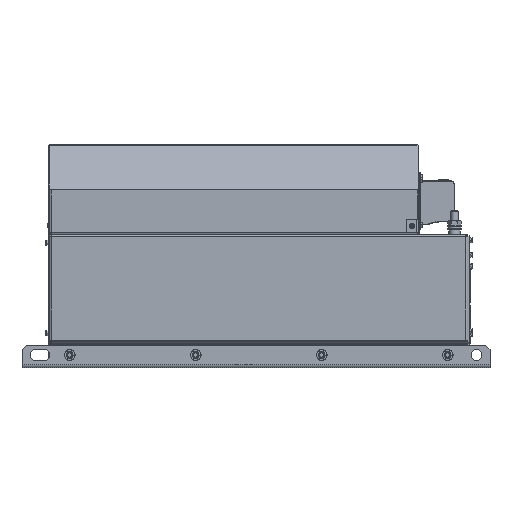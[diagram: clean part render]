
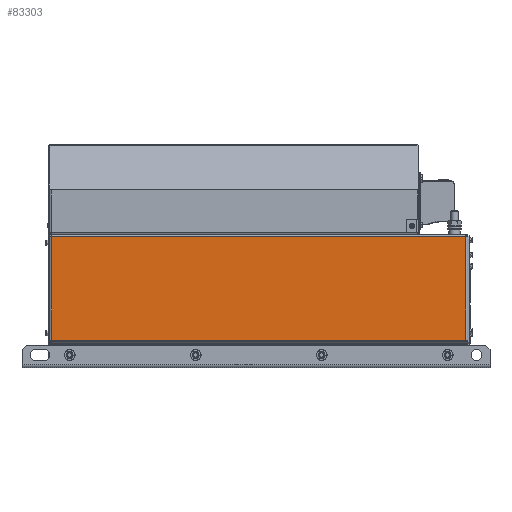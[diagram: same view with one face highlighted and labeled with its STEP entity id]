
A CAD part, left-side view. The second image highlights one B-rep face of the part: STEP entity #83303.
In plain terms, the highlighted planar face has unit normal (-1, 0, 0).
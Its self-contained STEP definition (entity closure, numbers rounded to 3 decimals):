
#3333=PLANE('',#88600);
#7437=FACE_OUTER_BOUND('',#12478,.T.);
#12478=EDGE_LOOP('',(#62225,#62226,#62227,#62228));
#21843=LINE('',#153507,#28965);
#22412=LINE('',#156756,#29534);
#22455=LINE('',#157038,#29577);
#22456=LINE('',#157039,#29578);
#28965=VECTOR('',#99461,10.);
#29534=VECTOR('',#101806,10.);
#29577=VECTOR('',#101909,10.);
#29578=VECTOR('',#101910,10.);
#35846=VERTEX_POINT('',#153504);
#35847=VERTEX_POINT('',#153506);
#36675=VERTEX_POINT('',#156747);
#36706=VERTEX_POINT('',#157037);
#44545=EDGE_CURVE('',#35847,#35846,#21843,.T.);
#45777=EDGE_CURVE('',#35846,#36675,#22412,.T.);
#45832=EDGE_CURVE('',#35847,#36706,#22455,.T.);
#45833=EDGE_CURVE('',#36706,#36675,#22456,.T.);
#62225=ORIENTED_EDGE('',*,*,#45832,.F.);
#62226=ORIENTED_EDGE('',*,*,#44545,.T.);
#62227=ORIENTED_EDGE('',*,*,#45777,.T.);
#62228=ORIENTED_EDGE('',*,*,#45833,.F.);
#83303=ADVANCED_FACE('',(#7437),#3333,.F.);
#88600=AXIS2_PLACEMENT_3D('',#157036,#101907,#101908);
#99461=DIRECTION('',(0.,1.,0.));
#101806=DIRECTION('',(0.,0.,-1.));
#101907=DIRECTION('center_axis',(1.,0.,0.));
#101908=DIRECTION('ref_axis',(0.,0.,
-1.));
#101909=DIRECTION('',(0.,0.,-1.));
#101910=DIRECTION('',(0.,1.,0.));
#153504=CARTESIAN_POINT('',(-140.,227.2,145.7));
#153506=CARTESIAN_POINT('',(-140.,-233.2,145.7));
#153507=CARTESIAN_POINT('',(-140.,229.5,145.7));
#156747=CARTESIAN_POINT('',(-140.,227.2,30.453));
#156756=CARTESIAN_POINT('',(-140.,227.2,81.6));
#157036=CARTESIAN_POINT('Origin',(-140.,-235.5,29.5));
#157037=CARTESIAN_POINT('',(-140.,-233.2,30.453));
#157038=CARTESIAN_POINT('',(-140.,-233.2,133.71));
#157039=CARTESIAN_POINT('',(-140.,-235.5,30.453));
